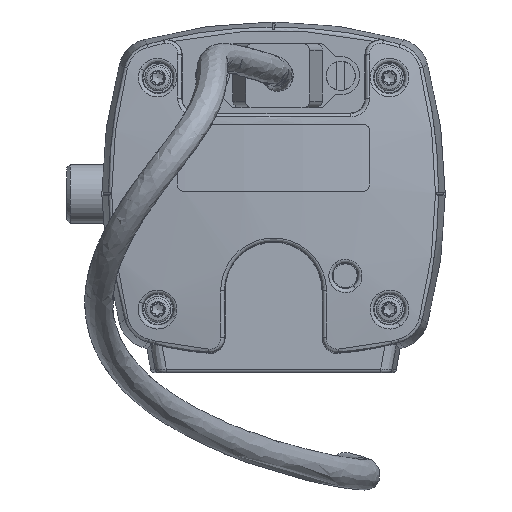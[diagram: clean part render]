
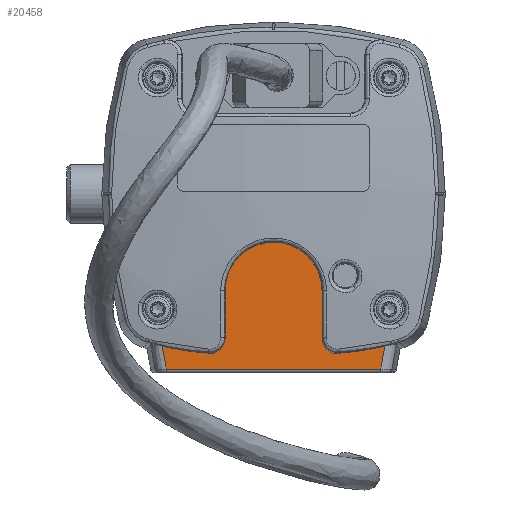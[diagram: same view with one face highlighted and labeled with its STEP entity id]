
A CAD part, left-side view. The second image highlights one B-rep face of the part: STEP entity #20458.
In plain terms, the highlighted planar face has unit normal (-1, 0, 0).
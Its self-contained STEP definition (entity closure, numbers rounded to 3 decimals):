
#424=ELLIPSE('',#22093,49.312,45.3);
#436=ELLIPSE('',#22150,49.312,45.3);
#437=ELLIPSE('',#22152,2.031,2.001);
#438=ELLIPSE('',#22154,2.031,2.001);
#990=LINE('',#43844,#2403);
#991=LINE('',#43886,#2404);
#992=LINE('',#43934,#2405);
#1002=LINE('',#45322,#2415);
#1003=LINE('',#45326,#2416);
#2403=VECTOR('',#25615,10.);
#2404=VECTOR('',#25622,1000.);
#2405=VECTOR('',#25623,10.);
#2415=VECTOR('',#25757,1000.);
#2416=VECTOR('',#25760,1000.);
#4825=FACE_OUTER_BOUND('',#6055,.T.);
#6055=EDGE_LOOP('',(#14689,#14690,#14691,#14692,#14693,#14694,#14695,#14696,
#14697,#14698));
#7185=CIRCLE('',#22153,6.5);
#8471=VERTEX_POINT('',#43842);
#8472=VERTEX_POINT('',#43843);
#8473=VERTEX_POINT('',#43884);
#8474=VERTEX_POINT('',#43933);
#8475=VERTEX_POINT('',#43950);
#8524=VERTEX_POINT('',#45315);
#8525=VERTEX_POINT('',#45319);
#8526=VERTEX_POINT('',#45321);
#8527=VERTEX_POINT('',#45323);
#8528=VERTEX_POINT('',#45325);
#10792=EDGE_CURVE('',#8471,#8472,#990,.T.);
#10797=EDGE_CURVE('',#8473,#8471,#991,.T.);
#10799=EDGE_CURVE('',#8474,#8473,#992,.T.);
#10803=EDGE_CURVE('',#8475,#8474,#424,.T.);
#10876=EDGE_CURVE('',#8472,#8524,#436,.T.);
#10877=EDGE_CURVE('',#8524,#8525,#437,.T.);
#10878=EDGE_CURVE('',#8525,#8526,#1002,.T.);
#10879=EDGE_CURVE('',#8526,#8527,#7185,.T.);
#10880=EDGE_CURVE('',#8527,#8528,#1003,.T.);
#10881=EDGE_CURVE('',#8528,#8475,#438,.T.);
#14689=ORIENTED_EDGE('',*,*,#10799,.T.);
#14690=ORIENTED_EDGE('',*,*,#10797,.T.);
#14691=ORIENTED_EDGE('',*,*,#10792,.T.);
#14692=ORIENTED_EDGE('',*,*,#10876,.T.);
#14693=ORIENTED_EDGE('',*,*,#10877,.T.);
#14694=ORIENTED_EDGE('',*,*,#10878,.T.);
#14695=ORIENTED_EDGE('',*,*,#10879,.T.);
#14696=ORIENTED_EDGE('',*,*,#10880,.T.);
#14697=ORIENTED_EDGE('',*,*,#10881,.T.);
#14698=ORIENTED_EDGE('',*,*,#10803,.T.);
#18460=PLANE('',#22151);
#20458=ADVANCED_FACE('',(#4825),#18460,.F.);
#22093=AXIS2_PLACEMENT_3D('',#43954,#25628,#25629);
#22150=AXIS2_PLACEMENT_3D('',#45317,#25751,#25752);
#22151=AXIS2_PLACEMENT_3D('',#45318,#25753,#25754);
#22152=AXIS2_PLACEMENT_3D('',#45320,#25755,#25756);
#22153=AXIS2_PLACEMENT_3D('',#45324,#25758,#25759);
#22154=AXIS2_PLACEMENT_3D('',#45327,#25761,#25762);
#25615=DIRECTION('',(0.,-0.175,0.985));
#25622=DIRECTION('',(0.,-1.,0.));
#25623=DIRECTION('',(0.,-0.175,-0.985));
#25628=DIRECTION('center_axis',(1.,0.,0.));
#25629=DIRECTION('ref_axis',(0.,-0.214,0.977));
#25751=DIRECTION('center_axis',(1.,0.,0.));
#25752=DIRECTION('ref_axis',(0.,0.214,0.977));
#25753=DIRECTION('center_axis',(1.,0.,0.));
#25754=DIRECTION('ref_axis',(0.,1.,0.));
#25755=DIRECTION('center_axis',(1.,0.,0.));
#25756=DIRECTION('ref_axis',(0.,-0.209,0.978));
#25757=DIRECTION('',(0.,0.,1.));
#25758=DIRECTION('center_axis',(-1.,0.,0.));
#25759=DIRECTION('ref_axis',(0.,1.,0.));
#25760=DIRECTION('',(0.,0.,-1.));
#25761=DIRECTION('center_axis',(1.,0.,0.));
#25762=DIRECTION('ref_axis',(0.,0.209,0.978));
#43842=CARTESIAN_POINT('',(-166.23,-49.57,-30.104));
#43843=CARTESIAN_POINT('',(-166.23,-50.115,-27.039));
#43844=CARTESIAN_POINT('',(-166.23,-49.57,-30.104));
#43884=CARTESIAN_POINT('',(-166.23,-20.836,-30.104));
#43886=CARTESIAN_POINT('',(-166.23,-58.203,-30.104));
#43933=CARTESIAN_POINT('',(-166.23,-20.291,-27.039));
#43934=CARTESIAN_POINT('',(-166.23,-20.291,-27.039));
#43950=CARTESIAN_POINT('',(-166.23,-26.568,-27.989));
#43954=CARTESIAN_POINT('Origin',(-166.23,-31.283,21.032));
#45315=CARTESIAN_POINT('',(-166.23,-43.839,-27.989));
#45317=CARTESIAN_POINT('Origin',(-166.23,-39.124,21.032));
#45318=CARTESIAN_POINT('Origin',(-166.23,-58.203,-30.604));
#45319=CARTESIAN_POINT('',(-166.23,-41.703,-25.977));
#45320=CARTESIAN_POINT('Origin',(-166.23,-43.705,-25.964));
#45321=CARTESIAN_POINT('',(-166.23,-41.703,-19.604));
#45322=CARTESIAN_POINT('',(-166.23,-41.703,-19.604));
#45323=CARTESIAN_POINT('',(-166.23,-28.703,-19.604));
#45324=CARTESIAN_POINT('Origin',(-166.23,-35.203,-19.604));
#45325=CARTESIAN_POINT('',(-166.23,-28.703,-25.977));
#45326=CARTESIAN_POINT('',(-166.23,-28.703,-19.604));
#45327=CARTESIAN_POINT('Origin',(-166.23,-26.701,-25.964));
